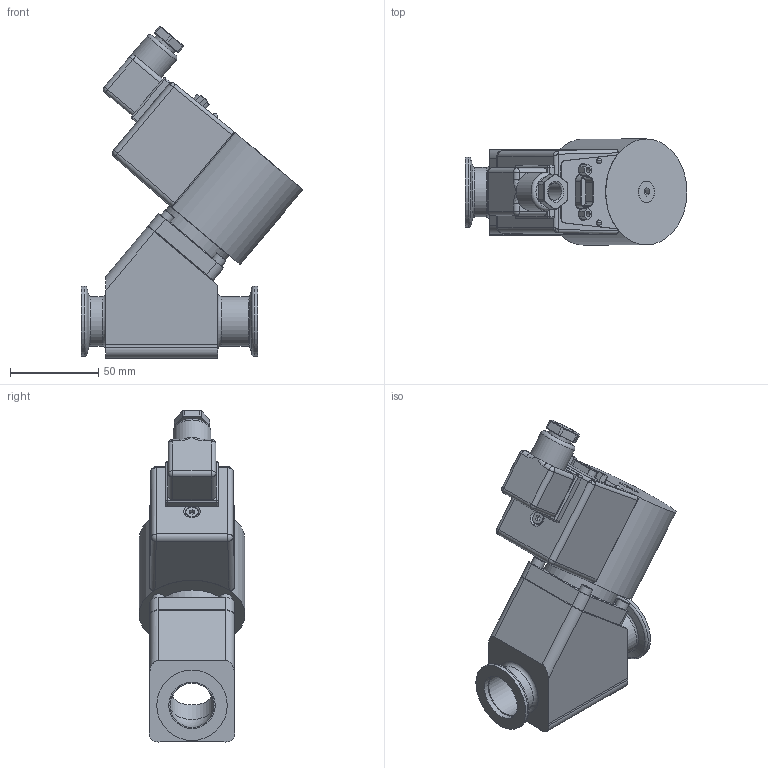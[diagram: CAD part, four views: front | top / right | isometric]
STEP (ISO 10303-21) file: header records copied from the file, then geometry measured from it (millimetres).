
FILE_DESCRIPTION(/* description */ (''),/* implementation_level */ '2;1');
FILE_NAME(/* name */ '1083941344_203.stp',/* time_stamp */ '2013-09-12T14:24:52+02:00',/* author */ (''),/* organization */ (''),/* preprocessor_version */ 'ST-DEVELOPER v11',/* originating_system */ 'SIEMENS PLM Software NX 7.5',/* authorisation */ '');
FILE_SCHEMA (('AP203_CONFIGURATION_CONTROLLED_3D_DESIGN_OF_MECHANICAL_PARTS_AND_ASSEMBLIES_MIM_LF'));
Length unit declared in the file: millimetre
Products named in the file (9): 467856; 467897; 546487; 481135; 481131; 510507; 510549; 467857_MODELNX-ARRAGMNTArrangement 1; 709420
Assembly tree (11 placements, depth 3):
  709420
    510549
    510507
    481131
    481135  x4
    467857_MODELNX-ARRAGMNTArrangement 1
      467897
      467856
    546487
Bounding box: 125.64 x 60 x 187.96 mm (x, y, z)
Volume: 304885.5 mm3; surface area: 137679 mm2
Topology: 46 solids, 46 shells, 980 faces, 2341 edges, 1502 vertices
Faces by surface type: plane 506, cylinder 307, cone 69, torus 50, bspline 30, sphere 18
Full cylindrical faces by diameter (mm): 3 x1, 3.26 x5, 3.3 x9, 4 x10, 4.4 x4, 4.96 x1, 5 x1, 6 x2, 7 x5, 9.962 x1, 12 x1, 14 x1, 21.5 x1, 25 x3, 26.3 x2, 28 x2, 28.1 x1, 28.5 x1, 33 x1, 36.5 x1, 39.1 x1, 39.84 x2, 41.5 x1, 41.85 x1, 44 x1, 44.9 x1
Entity records: 31292 total; most frequent: CARTESIAN_POINT 7557, DIRECTION 4377, ORIENTED_EDGE 4222, EDGE_CURVE 2111, AXIS2_PLACEMENT_3D 1591, VERTEX_POINT 1413, LINE 1195, VECTOR 1195
